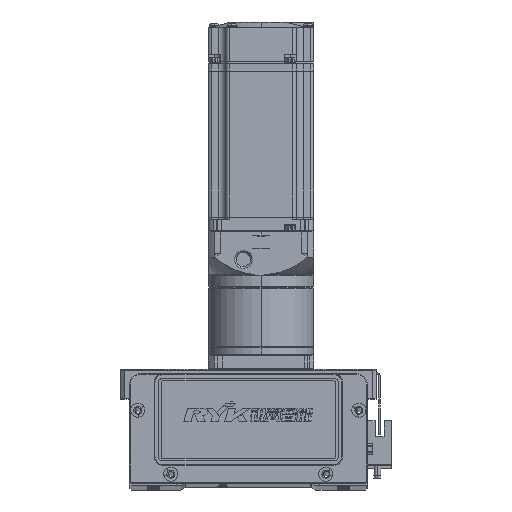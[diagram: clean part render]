
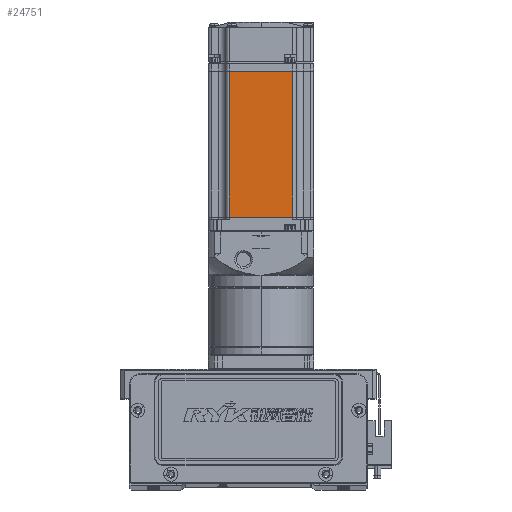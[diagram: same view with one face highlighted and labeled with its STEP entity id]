
A CAD part, top view. The second image highlights one B-rep face of the part: STEP entity #24751.
In plain terms, the highlighted planar face has unit normal (0, 0, 1).
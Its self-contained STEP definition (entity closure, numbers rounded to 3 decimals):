
#373 = DIRECTION ( 'NONE',  ( 0., -1., 0. ) ) ;
#1250 = ORIENTED_EDGE ( 'NONE', *, *, #43413, .F. ) ;
#1525 = CARTESIAN_POINT ( 'NONE',  ( -6.5, -18., 30. ) ) ;
#1764 = LINE ( 'NONE', #53332, #57696 ) ;
#7530 = PLANE ( 'NONE',  #46331 ) ;
#8367 = CARTESIAN_POINT ( 'NONE',  ( -7.75, -18., 30. ) ) ;
#8964 = VERTEX_POINT ( 'NONE', #75811 ) ;
#9961 = VERTEX_POINT ( 'NONE', #41600 ) ;
#12842 = VECTOR ( 'NONE', #62775, 1000. ) ;
#15754 = EDGE_CURVE ( 'NONE', #9961, #8964, #63141, .T. ) ;
#16379 = ORIENTED_EDGE ( 'NONE', *, *, #15754, .T. ) ;
#16882 = VECTOR ( 'NONE', #35732, 1000. ) ;
#17257 = CARTESIAN_POINT ( 'NONE',  ( -7.75, 0., 30. ) ) ;
#19536 = DIRECTION ( 'NONE',  ( 1., 0., 0. ) ) ;
#24751 = ADVANCED_FACE ( 'NONE', ( #75742 ), #7530, .T. ) ;
#28774 = VECTOR ( 'NONE', #31818, 1000. ) ;
#31818 = DIRECTION ( 'NONE',  ( -1., 0., 0. ) ) ;
#34586 = LINE ( 'NONE', #17257, #16882 ) ;
#35732 = DIRECTION ( 'NONE',  ( 0., -1., 0. ) ) ;
#36806 = ORIENTED_EDGE ( 'NONE', *, *, #47737, .T. ) ;
#36883 = EDGE_LOOP ( 'NONE', ( #67538, #16379, #36806, #1250 ) ) ;
#37709 = DIRECTION ( 'NONE',  ( 0., 0., 1. ) ) ;
#41600 = CARTESIAN_POINT ( 'NONE',  ( -7.75, 18., 30. ) ) ;
#43413 = EDGE_CURVE ( 'NONE', #70468, #54148, #60368, .T. ) ;
#46331 = AXIS2_PLACEMENT_3D ( 'NONE', #49131, #37709, #19536 ) ;
#47737 = EDGE_CURVE ( 'NONE', #8964, #54148, #1764, .T. ) ;
#49131 = CARTESIAN_POINT ( 'NONE',  ( -6.5, -25., 30. ) ) ;
#53332 = CARTESIAN_POINT ( 'NONE',  ( -90.45, 0., 30. ) ) ;
#54148 = VERTEX_POINT ( 'NONE', #56135 ) ;
#54961 = CARTESIAN_POINT ( 'NONE',  ( -6.5, 18., 30. ) ) ;
#56135 = CARTESIAN_POINT ( 'NONE',  ( -90.45, -18., 30. ) ) ;
#57696 = VECTOR ( 'NONE', #373, 1000. ) ;
#60368 = LINE ( 'NONE', #1525, #28774 ) ;
#62775 = DIRECTION ( 'NONE',  ( -1., 0., 0. ) ) ;
#63141 = LINE ( 'NONE', #54961, #12842 ) ;
#67538 = ORIENTED_EDGE ( 'NONE', *, *, #76084, .F. ) ;
#70468 = VERTEX_POINT ( 'NONE', #8367 ) ;
#75742 = FACE_OUTER_BOUND ( 'NONE', #36883, .T. ) ;
#75811 = CARTESIAN_POINT ( 'NONE',  ( -90.45, 18., 30. ) ) ;
#76084 = EDGE_CURVE ( 'NONE', #9961, #70468, #34586, .T. ) ;
